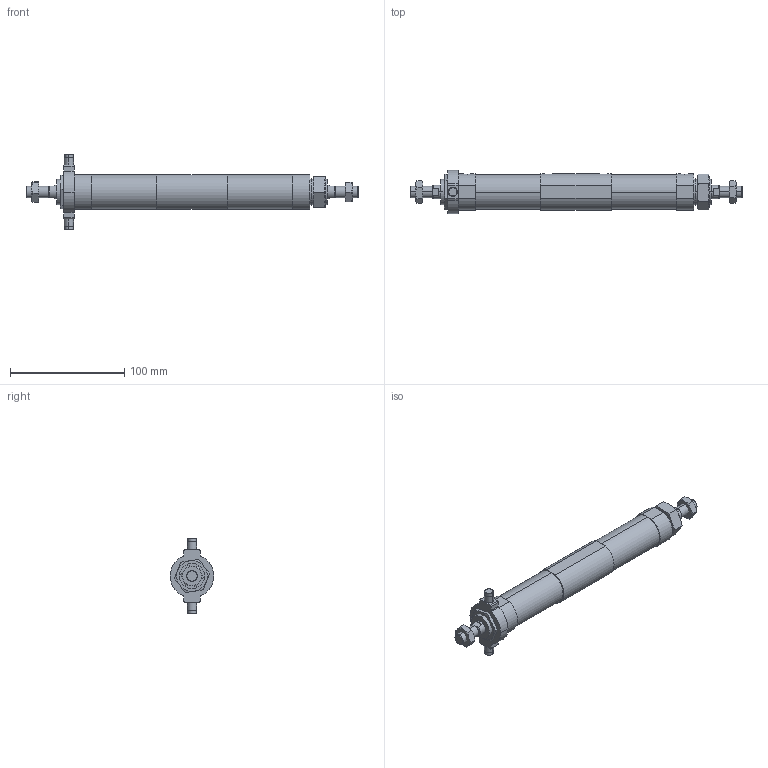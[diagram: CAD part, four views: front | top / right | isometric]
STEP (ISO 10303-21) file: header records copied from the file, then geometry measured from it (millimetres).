
FILE_DESCRIPTION (( 'STEP AP203' ), '1' );
FILE_NAME ('JGD7-25-25-25-T.STEP', '2016-04-19T07:23:29', ( '' ), ( '' ), 'SwSTEP 2.0', 'SolidWorks 2014', '' );
FILE_SCHEMA (( 'CONFIG_CONTROL_DESIGN' ));
Length unit declared in the file: millimetre
Products named in the file (8): M10x1.5-6mm; M22x1.5-10mm; JGLH2-25B; JGD2-25MI; J#2-25-T; M22x1.5-3mm; JGD7-25-25-25-T; 25-25
Assembly tree (10 placements, depth 2):
  JGD7-25-25-25-T
    JGLH2-25B  x2
    25-25  x2
    JGD2-25MI
    M10x1.5-6mm  x2
    M22x1.5-3mm
    J#2-25-T
    M22x1.5-10mm
Bounding box: 290 x 38 x 66 mm (x, y, z)
Volume: 179061.6 mm3; surface area: 42609.9 mm2
Topology: 10 solids, 10 shells, 211 faces, 469 edges, 282 vertices
Faces by surface type: plane 76, cylinder 63, torus 48, cone 24
Entity records: 5635 total; most frequent: CARTESIAN_POINT 1347, DIRECTION 727, ORIENTED_EDGE 678, EDGE_CURVE 339, AXIS2_PLACEMENT_3D 303, VERTEX_POINT 207, EDGE_LOOP 170, FACE_OUTER_BOUND 154
